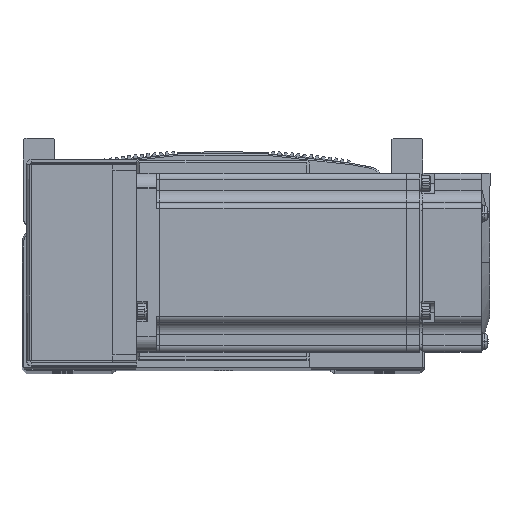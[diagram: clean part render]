
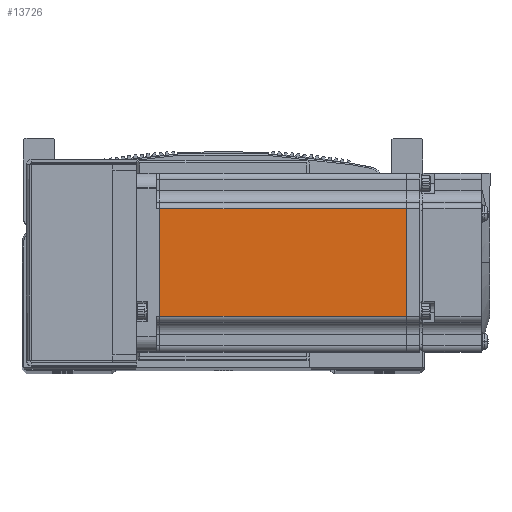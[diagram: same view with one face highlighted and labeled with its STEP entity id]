
A CAD part, top view. The second image highlights one B-rep face of the part: STEP entity #13726.
In plain terms, the highlighted planar face has unit normal (0, 0, 1) as drawn and (0, 0, -1) by its records, which use the part's own axes.
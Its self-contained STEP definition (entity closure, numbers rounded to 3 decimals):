
#13726 = ADVANCED_FACE ( 'NONE', ( #42368 ), #75906, .T. ) ;
#16765 = LINE ( 'NONE', #26542, #16766 ) ;
#16766 = VECTOR ( 'NONE', #26544, 1000. ) ;
#16791 = VECTOR ( 'NONE', #26569, 1000. ) ;
#16797 = LINE ( 'NONE', #26577, #16829 ) ;
#16803 = LINE ( 'NONE', #26559, #16804 ) ;
#16804 = VECTOR ( 'NONE', #26560, 1000. ) ;
#16811 = LINE ( 'NONE', #26581, #16791 ) ;
#16829 = VECTOR ( 'NONE', #26580, 1000. ) ;
#26542 = CARTESIAN_POINT ( 'NONE',  ( -6.5, -18., -30. ) ) ;
#26544 = DIRECTION ( 'NONE',  ( -1., 0., 0. ) ) ;
#26559 = CARTESIAN_POINT ( 'NONE',  ( -6.5, 18., -30. ) ) ;
#26560 = DIRECTION ( 'NONE',  ( 1., 0., 0. ) ) ;
#26569 = DIRECTION ( 'NONE',  ( 0., -1., 0. ) ) ;
#26577 = CARTESIAN_POINT ( 'NONE',  ( -90.45, 25., -30. ) ) ;
#26580 = DIRECTION ( 'NONE',  ( 0., 1., 0. ) ) ;
#26581 = CARTESIAN_POINT ( 'NONE',  ( -7.75, 25., -30. ) ) ;
#34656 = VERTEX_POINT ( 'NONE', #53091 ) ;
#34680 = VERTEX_POINT ( 'NONE', #53062 ) ;
#34878 = VERTEX_POINT ( 'NONE', #53265 ) ;
#38236 = VERTEX_POINT ( 'NONE', #74488 ) ;
#42368 = FACE_OUTER_BOUND ( 'NONE', #81425, .T. ) ;
#46307 = ORIENTED_EDGE ( 'NONE', *, *, #59558, .T. ) ;
#46391 = ORIENTED_EDGE ( 'NONE', *, *, #59529, .T. ) ;
#46393 = ORIENTED_EDGE ( 'NONE', *, *, #59505, .T. ) ;
#46437 = ORIENTED_EDGE ( 'NONE', *, *, #59568, .T. ) ;
#53062 = CARTESIAN_POINT ( 'NONE',  ( -7.75, 18., -30. ) ) ;
#53091 = CARTESIAN_POINT ( 'NONE',  ( -90.45, 18., -30. ) ) ;
#53265 = CARTESIAN_POINT ( 'NONE',  ( -7.75, -18., -30. ) ) ;
#59505 = EDGE_CURVE ( 'NONE', #34878, #38236, #16765, .T. ) ;
#59529 = EDGE_CURVE ( 'NONE', #34680, #34878, #16811, .T. ) ;
#59558 = EDGE_CURVE ( 'NONE', #38236, #34656, #16797, .T. ) ;
#59568 = EDGE_CURVE ( 'NONE', #34656, #34680, #16803, .T. ) ;
#66448 = AXIS2_PLACEMENT_3D ( 'NONE', #75920, #75899, #75934 ) ;
#74488 = CARTESIAN_POINT ( 'NONE',  ( -90.45, -18., -30. ) ) ;
#75899 = DIRECTION ( 'NONE',  ( 0., 0., -1. ) ) ;
#75906 = PLANE ( 'NONE',  #66448 ) ;
#75920 = CARTESIAN_POINT ( 'NONE',  ( -6.5, 25., -30. ) ) ;
#75934 = DIRECTION ( 'NONE',  ( -1., 0., 0. ) ) ;
#81425 = EDGE_LOOP ( 'NONE', ( #46391, #46393, #46307, #46437 ) ) ;
